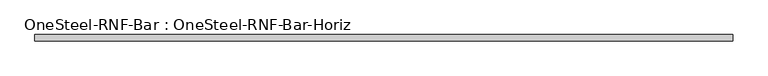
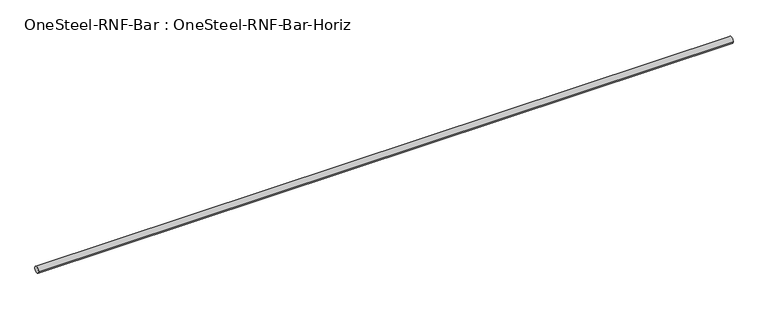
"""IFC4 building model written with IfcOpenShell, lengths in millimetres: proxy geometry, OneSteel-RNF-Bar : OneSteel-RNF-Bar-Horiz."""

from ifc_helpers import new_model, si_unit, point, frame, origin, origin_2d, place, context, project, spatial, circle_curve, trimmed, segment, composite_curve, outline, extrude, source, transform, mapped, element, save


def onesteel_rnf_bar_onesteel_rnf_bar_horiz_eb721214(model_context):
    return source(origin(), model_context, "Body", "SweptSolid", [
        extrude(outline(composite_curve([segment(trimmed(circle_curve(origin_2d(), 6.0), [point((-6.0, 0.0))], [point((6.0, 0.0))], False, "CARTESIAN"), True, "CONTINUOUS"), segment(trimmed(circle_curve(origin_2d(), 6.0), [point((6.0, 0.0))], [point((-6.0, 0.0))], False, "CARTESIAN"), True, "CONTINUOUS")], self_intersect=False)), frame((0.0, 0.0, 0.0), z_axis=(1.0, 0.0, 0.0), x_axis=(0.0, 1.0, 0.0)), (0.0, 0.0, 1.0), 1305.0),
    ])


if __name__ == "__main__":
    model = new_model("IFC4")
    model_context = context("Model", 3, world=origin())
    ifc_project = project(units=[si_unit("LENGTHUNIT", "METRE", prefix="MILLI")], contexts=[model_context])
    site = spatial("IfcSite", under=ifc_project)
    building = spatial("IfcBuilding", under=site)
    placement = place(None, origin())
    onesteel_rnf_bar_onesteel_rnf_bar_horiz_shape = onesteel_rnf_bar_onesteel_rnf_bar_horiz_eb721214(model_context)
    element("IfcBuildingElementProxy", 1, Name="OneSteel-RNF-Bar : OneSteel-RNF-Bar-Horiz", ObjectType="OneSteel-RNF-Bar : OneSteel-RNF-Bar-Horiz", at=placement, inside=building, context=model_context, shape_type="MappedRepresentation", body=[
        mapped(onesteel_rnf_bar_onesteel_rnf_bar_horiz_shape, transform((0.0, 0.0, 0.0), x_axis=(1.0, 0.0, 0.0), y_axis=(0.0, 1.0, 0.0), z_axis=(0.0, 0.0, 1.0))),
    ])
    save(model, "model.ifc")
